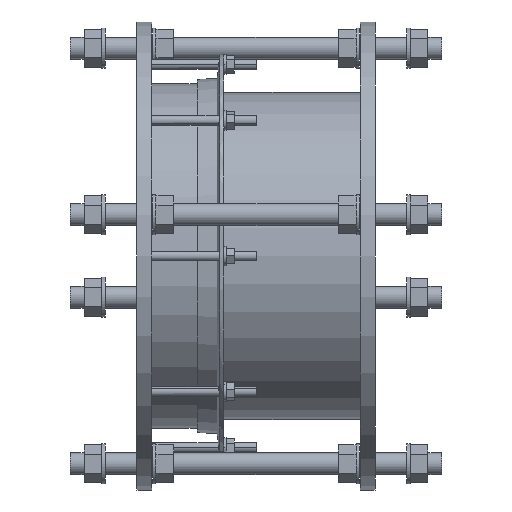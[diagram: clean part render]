
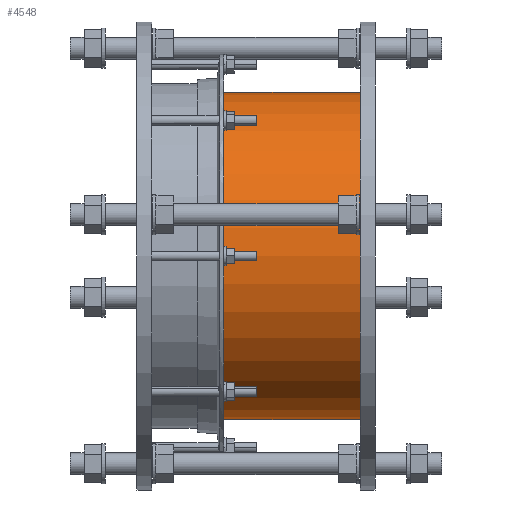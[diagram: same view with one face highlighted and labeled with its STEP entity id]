
A CAD part, left-side view. The second image highlights one B-rep face of the part: STEP entity #4548.
In plain terms, the highlighted cylindrical face has radius 202.7 mm (diameter 405.4 mm), a partial arc.
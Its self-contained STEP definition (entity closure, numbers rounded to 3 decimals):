
#897=CARTESIAN_POINT('',(0.,-107.5,0.));
#898=DIRECTION('',(0.,1.,0.));
#899=DIRECTION('',(0.,0.,-1.));
#900=AXIS2_PLACEMENT_3D('',#897,#898,#899);
#1037=CARTESIAN_POINT('',(0.,-277.,0.));
#1038=DIRECTION('',(0.,1.,0.));
#1039=DIRECTION('',(0.,0.,-1.));
#1040=AXIS2_PLACEMENT_3D('',#1037,#1038,#1039);
#1042=DIRECTION('',(0.,1.,0.));
#1043=VECTOR('',#1042,169.5);
#1044=CARTESIAN_POINT('',(0.,-277.,-202.7));
#1045=LINE('',#1044,#1043);
#1051=DIRECTION('',(0.,1.,0.));
#1052=VECTOR('',#1051,169.5);
#1053=CARTESIAN_POINT('',(0.,-277.,202.7));
#1054=LINE('',#1053,#1052);
#3072=CARTESIAN_POINT('',(0.,-277.,-202.7));
#3073=CARTESIAN_POINT('',(0.,-107.5,-202.7));
#3074=VERTEX_POINT('',#3072);
#3075=VERTEX_POINT('',#3073);
#3092=CARTESIAN_POINT('',(0.,-277.,202.7));
#3093=CARTESIAN_POINT('',(0.,-107.5,202.7));
#3094=VERTEX_POINT('',#3092);
#3095=VERTEX_POINT('',#3093);
#4534=CARTESIAN_POINT('',(0.,-309.75,0.));
#4535=DIRECTION('',(0.,1.,0.));
#4536=DIRECTION('',(0.,0.,-1.));
#4537=AXIS2_PLACEMENT_3D('',#4534,#4535,#4536);
#4538=CYLINDRICAL_SURFACE('',#4537,202.7);
#4540=ORIENTED_EDGE('',*,*,#4539,.T.);
#4541=ORIENTED_EDGE('',*,*,#4527,.T.);
#4543=ORIENTED_EDGE('',*,*,#4542,.F.);
#4545=ORIENTED_EDGE('',*,*,#4544,.F.);
#4546=EDGE_LOOP('',(#4540,#4541,#4543,#4545));
#4547=FACE_OUTER_BOUND('',#4546,.F.);
#4548=ADVANCED_FACE('',(#4547),#4538,.T.);
#901=CIRCLE('',#900,202.7);
#1041=CIRCLE('',#1040,202.7);
#4527=EDGE_CURVE('',#3075,#3095,#901,.T.);
#4539=EDGE_CURVE('',#3074,#3075,#1045,.T.);
#4542=EDGE_CURVE('',#3094,#3095,#1054,.T.);
#4544=EDGE_CURVE('',#3074,#3094,#1041,.T.);
